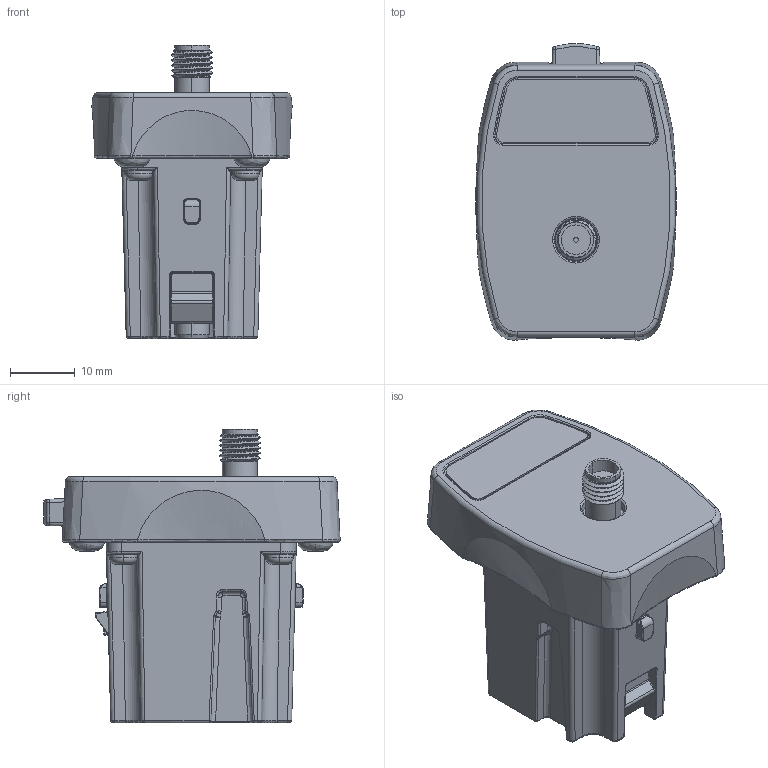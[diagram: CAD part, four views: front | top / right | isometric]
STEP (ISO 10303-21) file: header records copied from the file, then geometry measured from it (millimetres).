
FILE_DESCRIPTION((''),'2;1');
FILE_NAME('ADAPTER_BMA-SMA_HPI_ASM','2015-04-02T',('night'),(''),'PRO/ENGINEER BY PARAMETRIC TECHNOLOGY CORPORATION, 2012480','PRO/ENGINEER BY PARAMETRIC TECHNOLOGY CORPORATION, 2012480','');
FILE_SCHEMA(('CONFIG_CONTROL_DESIGN'));
Length unit declared in the file: inch
Products named in the file (16): NOSE_3_HPI; PCB_NOSE_3_HPI; 211112500; ADAPTER_BMA2SMA_HPI; WASHER_LOCK250_HPI; NUT_BMA_312_HPI; SKELETON_LOCK_HPI; PLATE_ADAPTER_BMA2LEVEL2_HPI; LOCK_3_HPI; SPRING_LOCK_HPI; BUTTON_LOCK_HPI; LOCK_ADAPTER_BMA-LEVEL2_HPI_ASM; COVER_SMA_HPI; LABEL_ADAPTER-BMA2SMA_HPI; 211112200; ADAPTER_BMA-SMA_HPI_ASM
Assembly tree (22 placements, depth 3):
  ADAPTER_BMA-SMA_HPI_ASM
    NOSE_3_HPI
    PCB_NOSE_3_HPI
    211112500  x5
    ADAPTER_BMA2SMA_HPI
    WASHER_LOCK250_HPI
    NUT_BMA_312_HPI
    LOCK_ADAPTER_BMA-LEVEL2_HPI_ASM
      SKELETON_LOCK_HPI
      PLATE_ADAPTER_BMA2LEVEL2_HPI
      LOCK_3_HPI
      SPRING_LOCK_HPI
      BUTTON_LOCK_HPI
    COVER_SMA_HPI
    LABEL_ADAPTER-BMA2SMA_HPI
    211112200  x4
Bounding box: 30.95 x 45.77 x 45.31 mm (x, y, z)
Volume: 13535.7 mm3; surface area: 18480.1 mm2
Topology: 20 solids, 20 shells, 1808 faces, 4505 edges, 2770 vertices
Faces by surface type: cylinder 664, plane 586, bspline 273, cone 142, torus 99, sphere 44
Entity records: 67403 total; most frequent: CARTESIAN_POINT 33086, ORIENTED_EDGE 7470, DIRECTION 6627, EDGE_CURVE 3735, AXIS2_PLACEMENT_3D 2494, VERTEX_POINT 2266, VECTOR 1639, LINE 1639
